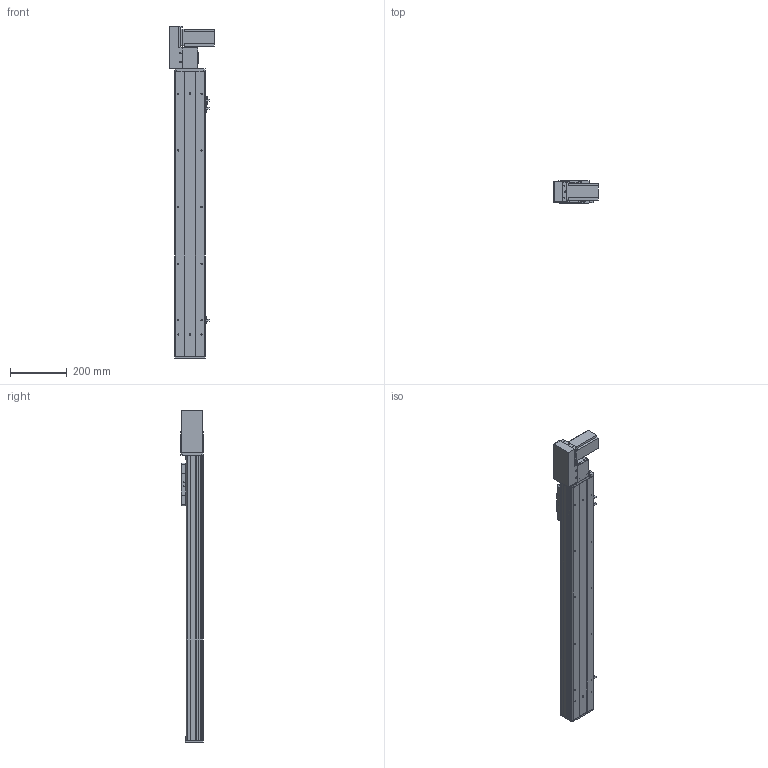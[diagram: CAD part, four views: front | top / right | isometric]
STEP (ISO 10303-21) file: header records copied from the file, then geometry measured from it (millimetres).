
FILE_DESCRIPTION (( 'STEP AP203' ), '1' );
FILE_NAME ('Y10CB-D90-S750-BL-P400W.STEP', '2020-02-15T07:47:49', ( '微软用户' ), ( '微软中国' ), 'SwSTEP 2.0', 'SolidWorks 2017', '' );
FILE_SCHEMA (( 'CONFIG_CONTROL_DESIGN' ));
Length unit declared in the file: millimetre
Products named in the file (18): 10CB9-掛极; Y10B--々湍喘謫眊--666; Y10C---詩湍揤啣; 10CB-耜裔; Y10B-耜蚾蟀諉啣----; Y135C-陔俋离換覜結え-; 0B-萇儂楊擘啣; Y100-135俋离換覜ん--; san松下电机400不带刹车----; Y10CB-D90-S750-BL-P400W; 0B-源倛裔啣; 0B-埴倛裔啣; 0CB-雄赽釱---; Y俋欶BR----; 0Cb-俋欶---; 10CB-詩湍-; Y10B-々湍喘謫眊楊擘啣--; Y10CB- 掛极耜裔啣-毀---
Assembly tree (21 placements, depth 2):
  Y10CB-D90-S750-BL-P400W
    0CB-雄赽釱---
    0Cb-俋欶---
    Y10B-々湍喘謫眊楊擘啣--
    Y10B--々湍喘謫眊--666
    Y10B-耜蚾蟀諉啣----
    0B-萇儂楊擘啣
    san松下电机400不带刹车----
    0B-源倛裔啣
    0B-埴倛裔啣
    Y俋欶BR----
    10CB-詩湍-
    Y10CB- 掛极耜裔啣-毀---  x2
    Y10C---詩湍揤啣  x2
    10CB9-掛极
    10CB-耜裔
    Y135C-陔俋离換覜結え-
    Y100-135俋离換覜ん--  x3
Bounding box: 157.5 x 80.5 x 1172.5 mm (x, y, z)
Volume: 2700379.6 mm3; surface area: 1192643.2 mm2
Topology: 21 solids, 21 shells, 978 faces, 2603 edges, 1706 vertices
Faces by surface type: cylinder 477, plane 477, cone 24
Entity records: 30404 total; most frequent: CARTESIAN_POINT 5321, DIRECTION 4926, ORIENTED_EDGE 4676, EDGE_CURVE 2338, AXIS2_PLACEMENT_3D 1761, VERTEX_POINT 1532, LINE 1404, VECTOR 1404
